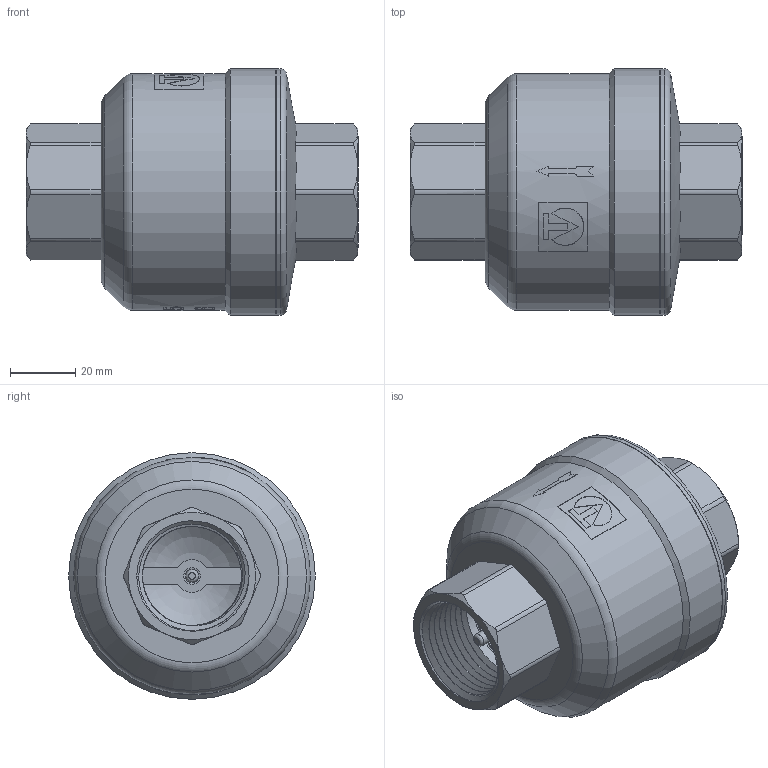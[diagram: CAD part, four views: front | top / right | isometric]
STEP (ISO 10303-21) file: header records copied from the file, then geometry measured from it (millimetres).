
FILE_DESCRIPTION(/* description */ (''),/* implementation_level */ '2;1');
FILE_NAME(/* name */ 'F:\Артём\00000\Работа удаленка\═╝╓╜\VT.202\VT.202.N.06.stp',/* time_stamp */ '2021-04-05T14:00:28+03:00',/* author */ ('almis'),/* organization */ (''),/* preprocessor_version */ 'ST-DEVELOPER v18',/* originating_system */ 'Autodesk Inventor 2020',/* authorisation */ '');
FILE_SCHEMA (('AUTOMOTIVE_DESIGN { 1 0 10303 214 3 1 1 }'));
Length unit declared in the file: millimetre
Products named in the file (1): VT.202.N.06
Bounding box: 101.63 x 75.5 x 75.5 mm (x, y, z)
Volume: 116336 mm3; surface area: 59581.7 mm2
Topology: 2 solids, 2 shells, 294 faces, 839 edges, 571 vertices
Faces by surface type: plane 120, cylinder 85, bspline 55, cone 26, torus 6, sphere 2
Full cylindrical faces by diameter (mm): 4 x2, 5 x2, 10 x2, 30.3 x14, 32.3 x1, 34.9 x14, 49.3 x1, 50 x1, 54.3 x1, 66.5 x1, 72.5 x1, 75.3 x1, 75.5 x2
Entity records: 15201 total; most frequent: CARTESIAN_POINT 7906, ORIENTED_EDGE 1678, DIRECTION 1308, EDGE_CURVE 839, VERTEX_POINT 571, AXIS2_PLACEMENT_3D 494, EDGE_LOOP 326, LINE 320
